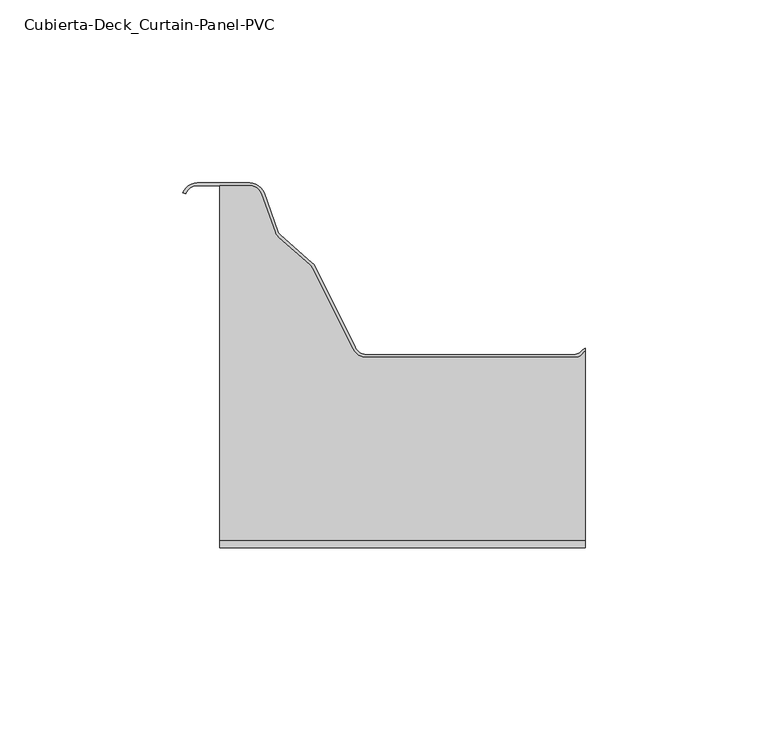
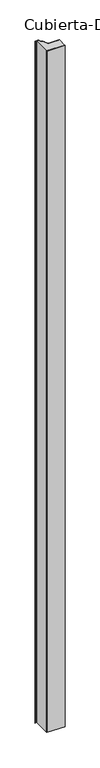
"""IFC4 building model written with IfcOpenShell, lengths in millimetres: plate geometry, Cubierta-Deck_Curtain-Panel-PVC : ACH_Cubierta-Deck_MW_50 mm."""

from ifc_helpers import new_model, si_unit, point, frame_2d, origin, origin_with_axes, place, context, project, spatial, polyline, circle_curve, trimmed, segment, composite_curve, outline, extrude, source, transform, mapped, element, save


def cubierta_deck_curtain_panel_pvc_e19e9fe5(model_context):
    return source(origin(), model_context, "Body", "SweptSolid", [
        extrude(outline(composite_curve([segment(polyline([(-50.0, -98.8), (-50.0, -1.8), (-41.8323638, -1.8)]), True, "CONTINUOUS"), segment(trimmed(circle_curve(frame_2d((-41.8323638, -5.2)), 3.4), [point((-41.8323638, -1.8))], [point((-38.6330749, -4.0491088))], False, "CARTESIAN"), True, "CONTINUOUS"), segment(polyline([(-38.6330749, -4.0491088), (-34.8455616, -14.5777749)]), True, "CONTINUOUS"), segment(trimmed(circle_curve(frame_2d((-31.9285629, -13.5284329)), 3.1), [point((-34.8455616, -14.5777749))], [point((-33.9696761, -15.8616403))], True, "CARTESIAN"), True, "CONTINUOUS"), segment(polyline([(-33.9696761, -15.8616403), (-25.3099327, -23.4372709)]), True, "CONTINUOUS"), segment(trimmed(circle_curve(frame_2d((-27.2193612, -25.6199488)), 2.9), [point((-25.3099327, -23.4372709))], [point((-24.6223111, -24.3294719))], False, "CARTESIAN"), True, "CONTINUOUS"), segment(polyline([(-24.6223111, -24.3294719), (-13.6487521, -46.4134657)]), True, "CONTINUOUS"), segment(trimmed(circle_curve(frame_2d((-9.7979536, -44.5)), 4.3), [point((-13.6487521, -46.4134657))], [point((-9.7979536, -48.8))], True, "CARTESIAN"), True, "CONTINUOUS"), segment(polyline([(-9.7979536, -48.8), (46.9819404, -48.8)]), True, "CONTINUOUS"), segment(trimmed(circle_curve(frame_2d((46.9819404, -45.7)), 3.1), [point((46.9819404, -48.8))], [point((49.1739715, -47.892031))], True, "CARTESIAN"), True, "CONTINUOUS"), segment(polyline([(49.1739715, -47.892031), (49.7941272, -47.2718753)]), True, "CONTINUOUS"), segment(trimmed(circle_curve(frame_2d((51.4672218, -50.0020238)), 3.2020238), [point((49.7941272, -47.2718753))], [point((50.0, -47.1559359))], False, "CARTESIAN"), True, "CONTINUOUS"), segment(polyline([(50.0, -47.1559359), (50.0, -98.8), (-50.0, -98.8)]), True, "CONTINUOUS")], self_intersect=False)), origin_with_axes(), (0.0, 0.0, 1.0), 4000.0),
        extrude(outline(composite_curve([segment(polyline([(-56.1676362, -1.0), (-41.8323638, -1.0)]), True, "CONTINUOUS"), segment(trimmed(circle_curve(frame_2d((-41.8323638, -5.2)), 4.2), [point((-41.8323638, -1.0))], [point((-37.880301, -3.7783109))], False, "CARTESIAN"), True, "CONTINUOUS"), segment(polyline([(-37.880301, -3.7783109), (-34.0927877, -14.3069769)]), True, "CONTINUOUS"), segment(trimmed(circle_curve(frame_2d((-31.9285629, -13.5284329)), 2.3), [point((-34.0927877, -14.3069769))], [point((-33.4429372, -15.2595222))], True, "CARTESIAN"), True, "CONTINUOUS"), segment(polyline([(-33.4429372, -15.2595222), (-24.7831938, -22.8351529)]), True, "CONTINUOUS"), segment(trimmed(circle_curve(frame_2d((-27.2193612, -25.6199488)), 3.7), [point((-24.7831938, -22.8351529))], [point((-23.9058834, -23.9734783))], False, "CARTESIAN"), True, "CONTINUOUS"), segment(polyline([(-23.9058834, -23.9734783), (-12.9323245, -46.0574721)]), True, "CONTINUOUS"), segment(trimmed(circle_curve(frame_2d((-9.7979536, -44.5)), 3.5), [point((-12.9323245, -46.0574721))], [point((-9.7979536, -48.0))], True, "CARTESIAN"), True, "CONTINUOUS"), segment(polyline([(-9.7979536, -48.0), (46.9819404, -48.0)]), True, "CONTINUOUS"), segment(trimmed(circle_curve(frame_2d((46.9819404, -45.7)), 2.3), [point((46.9819404, -48.0))], [point((48.608286, -47.3263456))], True, "CARTESIAN"), True, "CONTINUOUS"), segment(polyline([(48.608286, -47.3263456), (49.2916152, -46.6430165)]), True, "CONTINUOUS"), segment(trimmed(circle_curve(frame_2d((51.4672218, -50.0020238)), 4.0020238), [point((49.2916152, -46.6430165))], [point((50.0, -46.2786578))], False, "CARTESIAN"), True, "CONTINUOUS"), segment(polyline([(50.0, -46.2786578), (50.0, -47.1559359)]), True, "CONTINUOUS"), segment(trimmed(circle_curve(frame_2d((51.4672218, -50.0020238)), 3.2020238), [point((50.0, -47.1559359))], [point((49.7941272, -47.2718753))], True, "CARTESIAN"), True, "CONTINUOUS"), segment(polyline([(49.7941272, -47.2718753), (49.1739715, -47.892031)]), True, "CONTINUOUS"), segment(trimmed(circle_curve(frame_2d((46.9819404, -45.7)), 3.1), [point((49.1739715, -47.892031))], [point((46.9819404, -48.8))], False, "CARTESIAN"), True, "CONTINUOUS"), segment(polyline([(46.9819404, -48.8), (-9.7979536, -48.8)]), True, "CONTINUOUS"), segment(trimmed(circle_curve(frame_2d((-9.7979536, -44.5)), 4.3), [point((-9.7979536, -48.8))], [point((-13.6487521, -46.4134657))], False, "CARTESIAN"), True, "CONTINUOUS"), segment(polyline([(-13.6487521, -46.4134657), (-24.6223111, -24.3294719)]), True, "CONTINUOUS"), segment(trimmed(circle_curve(frame_2d((-27.2193612, -25.6199488)), 2.9), [point((-24.6223111, -24.3294719))], [point((-25.3099327, -23.4372709))], True, "CARTESIAN"), True, "CONTINUOUS"), segment(polyline([(-25.3099327, -23.4372709), (-33.9696761, -15.8616403)]), True, "CONTINUOUS"), segment(trimmed(circle_curve(frame_2d((-31.9285629, -13.5284329)), 3.1), [point((-33.9696761, -15.8616403))], [point((-34.8455616, -14.5777749))], False, "CARTESIAN"), True, "CONTINUOUS"), segment(polyline([(-34.8455616, -14.5777749), (-38.6330749, -4.0491088)]), True, "CONTINUOUS"), segment(trimmed(circle_curve(frame_2d((-41.8323638, -5.2)), 3.4), [point((-38.6330749, -4.0491088))], [point((-41.8323638, -1.8))], True, "CARTESIAN"), True, "CONTINUOUS"), segment(polyline([(-41.8323638, -1.8), (-56.1676362, -1.8)]), True, "CONTINUOUS"), segment(trimmed(circle_curve(frame_2d((-56.1676362, -5.2)), 3.4), [point((-56.1676362, -1.8))], [point((-59.3669251, -4.0491088))], True, "CARTESIAN"), True, "CONTINUOUS"), segment(polyline([(-59.3669251, -4.0491088), (-60.119699, -3.7783109)]), True, "CONTINUOUS"), segment(trimmed(circle_curve(frame_2d((-56.1676362, -5.2)), 4.2), [point((-60.119699, -3.7783109))], [point((-56.1676362, -1.0))], False, "CARTESIAN"), True, "CONTINUOUS")], self_intersect=False)), origin_with_axes(), (0.0, 0.0, 1.0), 4000.0),
        extrude(outline(polyline([(-50.0, -100.8), (-50.0, -98.8), (50.0, -98.8), (50.0, -100.8), (-50.0, -100.8)])), origin_with_axes(), (0.0, 0.0, 1.0), 4000.0),
    ])


if __name__ == "__main__":
    model = new_model("IFC4")
    model_context = context("Model", 3, world=origin())
    ifc_project = project(units=[si_unit("LENGTHUNIT", "METRE", prefix="MILLI")], contexts=[model_context])
    site = spatial("IfcSite", under=ifc_project)
    building = spatial("IfcBuilding", under=site)
    placement = place(None, origin())
    cubierta_deck_curtain_panel_pvc_shape = cubierta_deck_curtain_panel_pvc_e19e9fe5(model_context)
    element("IfcPlate", 1, ObjectType="Cubierta-Deck_Curtain-Panel-PVC : ACH_Cubierta-Deck_MW_50 mm", at=placement, inside=building, context=model_context, shape_type="MappedRepresentation", body=[
        mapped(cubierta_deck_curtain_panel_pvc_shape, transform((0.0, 0.0, 0.0), x_axis=(1.0, 0.0, 0.0), y_axis=(0.0, 1.0, 0.0), z_axis=(0.0, 0.0, 1.0))),
    ])
    save(model, "model.ifc")
